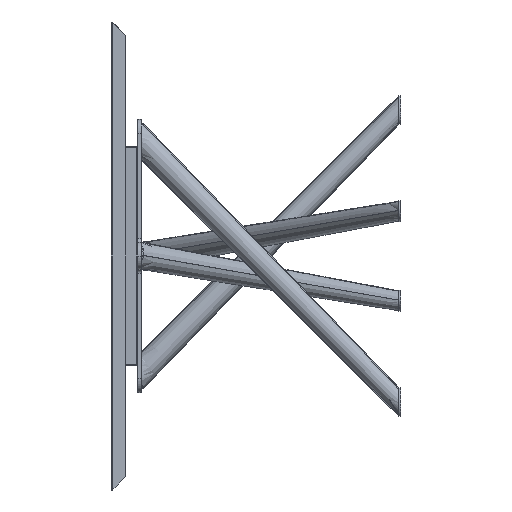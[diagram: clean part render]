
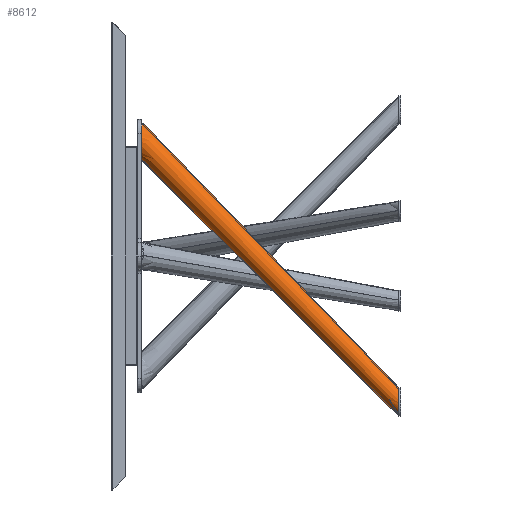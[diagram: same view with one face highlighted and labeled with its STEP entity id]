
A CAD part, left-side view. The second image highlights one B-rep face of the part: STEP entity #8612.
In plain terms, the highlighted conical face has half-angle 0.573 degrees and reference radius 25 mm.
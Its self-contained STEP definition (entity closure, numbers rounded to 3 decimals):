
#115 = CIRCLE ( 'NONE', #13400, 35. ) ;
#416 = CARTESIAN_POINT ( 'NONE',  ( -48.275, 660., 241.977 ) ) ;
#589 = CARTESIAN_POINT ( 'NONE',  ( -164.026, 0., -342.116 ) ) ;
#1096 = FACE_OUTER_BOUND ( 'NONE', #8776, .T. ) ;
#1105 = CARTESIAN_POINT ( 'NONE',  ( -116.725, 0., -410.142 ) ) ;
#1992 = CARTESIAN_POINT ( 'NONE',  ( 1.693, 655.157, 338.851 ) ) ;
#2088 = AXIS2_PLACEMENT_3D ( 'NONE', #5690, #4566, #9171 ) ;
#2096 = ORIENTED_EDGE ( 'NONE', *, *, #11051, .T. ) ;
#2286 = VECTOR ( 'NONE', #2655, 1000. ) ;
#2334 = CARTESIAN_POINT ( 'NONE',  ( 3.462, 679.882, 314.141 ) ) ;
#2655 = DIRECTION ( 'NONE',  ( 0.122, 0.704, 0.699 ) ) ;
#2882 = EDGE_CURVE ( 'NONE', #11232, #3151, #9382, .T. ) ;
#3050 = ORIENTED_EDGE ( 'NONE', *, *, #3322, .F. ) ;
#3151 = VERTEX_POINT ( 'NONE', #1992 ) ;
#3322 = EDGE_CURVE ( 'NONE', #10955, #11740, #6729, .T. ) ;
#3449 = DIRECTION ( 'NONE',  ( -0.121, -0.697, -0.706 ) ) ;
#3797 = EDGE_CURVE ( 'NONE', #3151, #8139, #115, .T. ) ;
#3817 = CARTESIAN_POINT ( 'NONE',  ( -56.207, 660., 303.559 ) ) ;
#4566 = DIRECTION ( 'NONE',  ( 0.121, 0.697, 0.706 ) ) ;
#5394 = CARTESIAN_POINT ( 'NONE',  ( -113.065, 0., -338.343 ) ) ;
#5563 = EDGE_CURVE ( 'NONE', #11232, #10955, #5706, .T. ) ;
#5690 = CARTESIAN_POINT ( 'NONE',  ( -117.949, -17.433, -392.267 ) ) ;
#5706 =( BOUNDED_CURVE ( )  B_SPLINE_CURVE ( 3, ( #10927, #589, #14441, #13451 ),
 .UNSPECIFIED., .F., .T. ) 
 B_SPLINE_CURVE_WITH_KNOTS ( ( 4, 4 ),
 ( 0.172, 3.31 ),
 .UNSPECIFIED. ) 
 CURVE ( )  GEOMETRIC_REPRESENTATION_ITEM ( )  RATIONAL_B_SPLINE_CURVE ( ( 1., 0.334, 0.334, 1. ) ) 
 REPRESENTATION_ITEM ( '' )  );
#6729 = LINE ( 'NONE', #14766, #2286 ) ;
#7443 = CARTESIAN_POINT ( 'NONE',  ( -2.49, 660., 245.144 ) ) ;
#8064 = DIRECTION ( 'NONE',  ( -0.051, -0.706, 0.706 ) ) ;
#8139 = VERTEX_POINT ( 'NONE', #14193 ) ;
#8592 = CONICAL_SURFACE ( 'NONE', #2088, 25., 0.01 ) ;
#8612 = ADVANCED_FACE ( 'NONE', ( #1096 ), #8592, .T. ) ;
#8776 = EDGE_LOOP ( 'NONE', ( #14494, #11621, #8870, #2096, #3050 ) ) ;
#8870 = ORIENTED_EDGE ( 'NONE', *, *, #3797, .T. ) ;
#9171 = DIRECTION ( 'NONE',  ( 0.051, 0.706, -0.706 ) ) ;
#9208 = CARTESIAN_POINT ( 'NONE',  ( -2.49, 660., 245.144 ) ) ;
#9382 = LINE ( 'NONE', #10577, #11179 ) ;
#10577 = CARTESIAN_POINT ( 'NONE',  ( -119.212, -35.093, -374.617 ) ) ;
#10927 = CARTESIAN_POINT ( 'NONE',  ( -113.065, 0., -338.343 ) ) ;
#10955 = VERTEX_POINT ( 'NONE', #1105 ) ;
#11051 = EDGE_CURVE ( 'NONE', #8139, #11740, #11968, .T. ) ;
#11179 = VECTOR ( 'NONE', #14010, 1000. ) ;
#11232 = VERTEX_POINT ( 'NONE', #5394 ) ;
#11621 = ORIENTED_EDGE ( 'NONE', *, *, #2882, .T. ) ;
#11740 = VERTEX_POINT ( 'NONE', #9208 ) ;
#11968 =( BOUNDED_CURVE ( )  B_SPLINE_CURVE ( 3, ( #14178, #3817, #416, #7443 ),
 .UNSPECIFIED., .F., .T. ) 
 B_SPLINE_CURVE_WITH_KNOTS ( ( 4, 4 ),
 ( 0.662, 3.31 ),
 .UNSPECIFIED. ) 
 CURVE ( )  GEOMETRIC_REPRESENTATION_ITEM ( )  RATIONAL_B_SPLINE_CURVE ( ( 1., 0.496, 0.496, 1. ) ) 
 REPRESENTATION_ITEM ( '' )  );
#13400 = AXIS2_PLACEMENT_3D ( 'NONE', #2334, #3449, #8064 ) ;
#13451 = CARTESIAN_POINT ( 'NONE',  ( -116.725, 0., -410.142 ) ) ;
#14010 = DIRECTION ( 'NONE',  ( 0.121, 0.69, 0.713 ) ) ;
#14178 = CARTESIAN_POINT ( 'NONE',  ( -14.298, 660., 336.819 ) ) ;
#14193 = CARTESIAN_POINT ( 'NONE',  ( -14.298, 660., 336.819 ) ) ;
#14441 = CARTESIAN_POINT ( 'NONE',  ( -167.673, 0., -413.666 ) ) ;
#14494 = ORIENTED_EDGE ( 'NONE', *, *, #5563, .F. ) ;
#14766 = CARTESIAN_POINT ( 'NONE',  ( -116.685, 0.227, -409.917 ) ) ;
